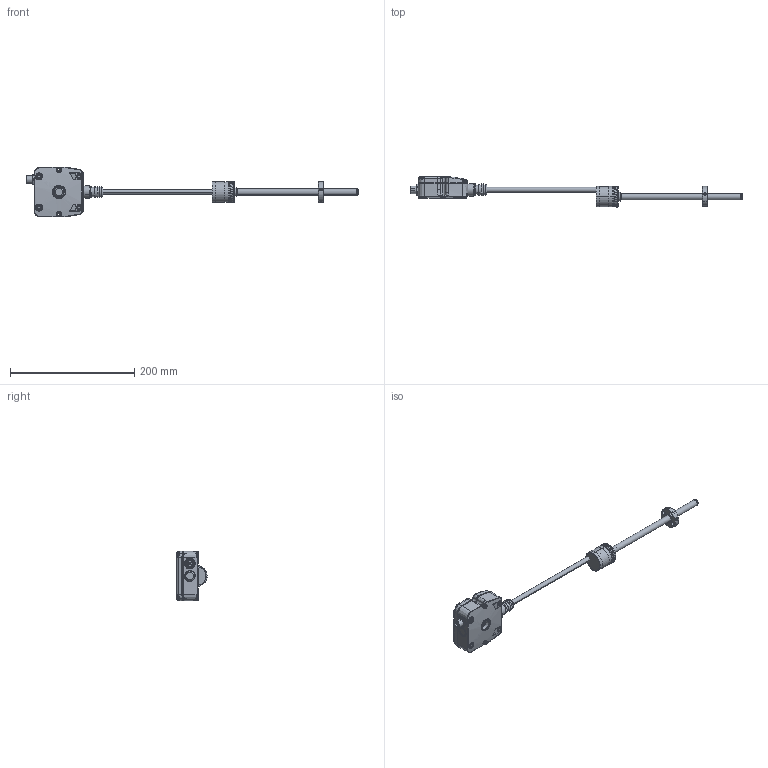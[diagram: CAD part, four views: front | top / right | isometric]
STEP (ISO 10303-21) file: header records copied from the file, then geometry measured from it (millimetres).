
FILE_DESCRIPTION (( 'STEP AP203' ), '1' );
FILE_NAME ('RK2_0100.STEP', '2009-06-18T08:59:55', ( 'User' ), ( 'Gefran S.p.a.' ), 'SwSTEP 2.0', 'SolidWorks 2009', '' );
FILE_SCHEMA (( 'CONFIG_CONTROL_DESIGN' ));
Products named in the file (17): GUA135x; PCAV550x; CUS975x; NIP450x; PRE699x; RK2_0100; PTUBx; NIP412x_Revisione_0; TUB922x_Revisione_0; PUN006x; CUR022x; ANE060x; EKAx; CUS968x; CON370x; MIM055x_MIM055; Resina
Assembly tree (19 placements, depth 3):
  RK2_0100
    ANE060x
    PTUBx
      TUB922x_Revisione_0
      NIP412x_Revisione_0
      PUN006x
    PCAV550x
    CUR022x
    GUA135x
    EKAx
      MIM055x_MIM055  x4
      PRE699x
      CUS975x
      NIP450x
      CON370x
      CUS968x
    Resina
Bounding box: 533.46 x 49.03 x 80 mm (x, y, z)
Volume: 104170.6 mm3; surface area: 86832.7 mm2
Topology: 24 solids, 30 shells, 2268 faces, 6458 edges, 4246 vertices
Faces by surface type: bspline 513, torus 483, cylinder 443, cone 416, plane 394, sphere 19
Entity records: 141531 total; most frequent: CARTESIAN_POINT 92819, ORIENTED_EDGE 11386, DIRECTION 7577, EDGE_CURVE 5701, VERTEX_POINT 3779, AXIS2_PLACEMENT_3D 3254, B_SPLINE_CURVE_WITH_KNOTS 2928, EDGE_LOOP 2164
